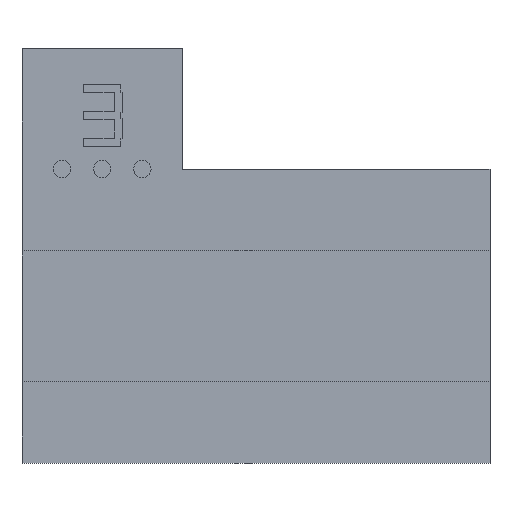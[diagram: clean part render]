
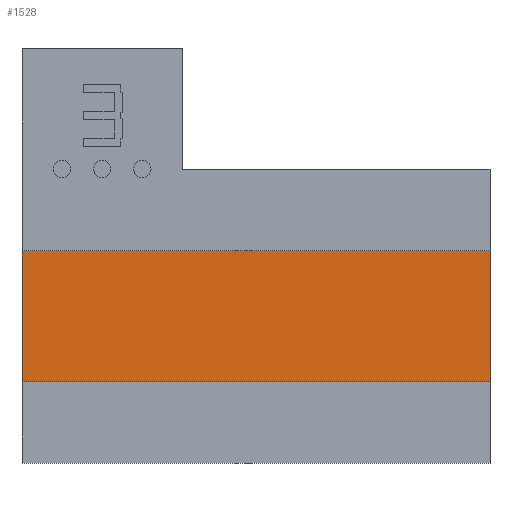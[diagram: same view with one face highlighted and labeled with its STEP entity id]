
A CAD part, top view. The second image highlights one B-rep face of the part: STEP entity #1528.
In plain terms, the highlighted planar face has unit normal (0, 0, 1).
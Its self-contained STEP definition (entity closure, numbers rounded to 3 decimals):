
#128 = PLANE('',#129);
#129 = AXIS2_PLACEMENT_3D('',#130,#131,#132);
#130 = CARTESIAN_POINT('',(12.,11.,6.2));
#131 = DIRECTION('',(1.,0.,0.));
#132 = DIRECTION('',(0.,0.,-1.));
#182 = PLANE('',#183);
#183 = AXIS2_PLACEMENT_3D('',#184,#185,#186);
#184 = CARTESIAN_POINT('',(-23.,11.,6.2));
#185 = DIRECTION('',(1.,0.,0.));
#186 = DIRECTION('',(0.,0.,-1.));
#422 = VERTEX_POINT('',#423);
#423 = CARTESIAN_POINT('',(12.,7.5,3.));
#436 = PLANE('',#437);
#437 = AXIS2_PLACEMENT_3D('',#438,#439,#440);
#438 = CARTESIAN_POINT('',(-31.,7.5,3.));
#439 = DIRECTION('',(0.,-1.,0.));
#440 = DIRECTION('',(0.,0.,1.));
#448 = EDGE_CURVE('',#422,#449,#451,.T.);
#449 = VERTEX_POINT('',#450);
#450 = CARTESIAN_POINT('',(12.,-7.5,3.));
#451 = SURFACE_CURVE('',#452,(#456,#462),.PCURVE_S1.);
#452 = LINE('',#453,#454);
#453 = CARTESIAN_POINT('',(12.,1.75,3.));
#454 = VECTOR('',#455,1.);
#455 = DIRECTION('',(0.,-1.,0.));
#456 = PCURVE('',#128,#457);
#457 = DEFINITIONAL_REPRESENTATION('',(#458),#461);
#458 = B_SPLINE_CURVE_WITH_KNOTS('',1,(#459,#460),.UNSPECIFIED.,.F.,.F.,
  (2,2),(-5.75,9.25),.PIECEWISE_BEZIER_KNOTS.);
#459 = CARTESIAN_POINT('',(3.2,-3.5));
#460 = CARTESIAN_POINT('',(3.2,-18.5));
#461 = ( GEOMETRIC_REPRESENTATION_CONTEXT(2) 
PARAMETRIC_REPRESENTATION_CONTEXT() REPRESENTATION_CONTEXT('2D SPACE',''
  ) );
#462 = PCURVE('',#463,#468);
#463 = PLANE('',#464);
#464 = AXIS2_PLACEMENT_3D('',#465,#466,#467);
#465 = CARTESIAN_POINT('',(-31.,-7.5,3.));
#466 = DIRECTION('',(0.,0.,1.));
#467 = DIRECTION('',(0.,1.,0.));
#468 = DEFINITIONAL_REPRESENTATION('',(#469),#473);
#469 = LINE('',#470,#471);
#470 = CARTESIAN_POINT('',(9.25,-43.));
#471 = VECTOR('',#472,1.);
#472 = DIRECTION('',(-1.,-0.));
#473 = ( GEOMETRIC_REPRESENTATION_CONTEXT(2) 
PARAMETRIC_REPRESENTATION_CONTEXT() REPRESENTATION_CONTEXT('2D SPACE',''
  ) );
#490 = PLANE('',#491);
#491 = AXIS2_PLACEMENT_3D('',#492,#493,#494);
#492 = CARTESIAN_POINT('',(-31.,-7.5,3.6));
#493 = DIRECTION('',(0.,1.,0.));
#494 = DIRECTION('',(0.,0.,-1.));
#678 = VERTEX_POINT('',#679);
#679 = CARTESIAN_POINT('',(-23.,7.5,3.));
#700 = EDGE_CURVE('',#678,#701,#703,.T.);
#701 = VERTEX_POINT('',#702);
#702 = CARTESIAN_POINT('',(-23.,-7.5,3.));
#703 = SURFACE_CURVE('',#704,(#708,#715),.PCURVE_S1.);
#704 = LINE('',#705,#706);
#705 = CARTESIAN_POINT('',(-23.,1.75,3.));
#706 = VECTOR('',#707,1.);
#707 = DIRECTION('',(0.,-1.,0.));
#708 = PCURVE('',#182,#709);
#709 = DEFINITIONAL_REPRESENTATION('',(#710),#714);
#710 = LINE('',#711,#712);
#711 = CARTESIAN_POINT('',(3.2,-9.25));
#712 = VECTOR('',#713,1.);
#713 = DIRECTION('',(0.,-1.));
#714 = ( GEOMETRIC_REPRESENTATION_CONTEXT(2) 
PARAMETRIC_REPRESENTATION_CONTEXT() REPRESENTATION_CONTEXT('2D SPACE',''
  ) );
#715 = PCURVE('',#463,#716);
#716 = DEFINITIONAL_REPRESENTATION('',(#717),#721);
#717 = LINE('',#718,#719);
#718 = CARTESIAN_POINT('',(9.25,-8.));
#719 = VECTOR('',#720,1.);
#720 = DIRECTION('',(-1.,-0.));
#721 = ( GEOMETRIC_REPRESENTATION_CONTEXT(2) 
PARAMETRIC_REPRESENTATION_CONTEXT() REPRESENTATION_CONTEXT('2D SPACE',''
  ) );
#1507 = EDGE_CURVE('',#449,#701,#1508,.T.);
#1508 = SURFACE_CURVE('',#1509,(#1513,#1520),.PCURVE_S1.);
#1509 = LINE('',#1510,#1511);
#1510 = CARTESIAN_POINT('',(12.,-7.5,3.));
#1511 = VECTOR('',#1512,1.);
#1512 = DIRECTION('',(-1.,-0.,0.));
#1513 = PCURVE('',#490,#1514);
#1514 = DEFINITIONAL_REPRESENTATION('',(#1515),#1519);
#1515 = LINE('',#1516,#1517);
#1516 = CARTESIAN_POINT('',(0.6,-43.));
#1517 = VECTOR('',#1518,1.);
#1518 = DIRECTION('',(0.,1.));
#1519 = ( GEOMETRIC_REPRESENTATION_CONTEXT(2) 
PARAMETRIC_REPRESENTATION_CONTEXT() REPRESENTATION_CONTEXT('2D SPACE',''
  ) );
#1520 = PCURVE('',#463,#1521);
#1521 = DEFINITIONAL_REPRESENTATION('',(#1522),#1526);
#1522 = LINE('',#1523,#1524);
#1523 = CARTESIAN_POINT('',(0.,-43.));
#1524 = VECTOR('',#1525,1.);
#1525 = DIRECTION('',(0.,1.));
#1526 = ( GEOMETRIC_REPRESENTATION_CONTEXT(2) 
PARAMETRIC_REPRESENTATION_CONTEXT() REPRESENTATION_CONTEXT('2D SPACE',''
  ) );
#1528 = ADVANCED_FACE('',(#1529),#463,.T.);
#1529 = FACE_BOUND('',#1530,.T.);
#1530 = EDGE_LOOP('',(#1531,#1532,#1533,#1554));
#1531 = ORIENTED_EDGE('',*,*,#1507,.F.);
#1532 = ORIENTED_EDGE('',*,*,#448,.F.);
#1533 = ORIENTED_EDGE('',*,*,#1534,.T.);
#1534 = EDGE_CURVE('',#422,#678,#1535,.T.);
#1535 = SURFACE_CURVE('',#1536,(#1540,#1547),.PCURVE_S1.);
#1536 = LINE('',#1537,#1538);
#1537 = CARTESIAN_POINT('',(12.,7.5,3.));
#1538 = VECTOR('',#1539,1.);
#1539 = DIRECTION('',(-1.,-0.,0.));
#1540 = PCURVE('',#463,#1541);
#1541 = DEFINITIONAL_REPRESENTATION('',(#1542),#1546);
#1542 = LINE('',#1543,#1544);
#1543 = CARTESIAN_POINT('',(15.,-43.));
#1544 = VECTOR('',#1545,1.);
#1545 = DIRECTION('',(0.,1.));
#1546 = ( GEOMETRIC_REPRESENTATION_CONTEXT(2) 
PARAMETRIC_REPRESENTATION_CONTEXT() REPRESENTATION_CONTEXT('2D SPACE',''
  ) );
#1547 = PCURVE('',#436,#1548);
#1548 = DEFINITIONAL_REPRESENTATION('',(#1549),#1553);
#1549 = LINE('',#1550,#1551);
#1550 = CARTESIAN_POINT('',(0.,-43.));
#1551 = VECTOR('',#1552,1.);
#1552 = DIRECTION('',(0.,1.));
#1553 = ( GEOMETRIC_REPRESENTATION_CONTEXT(2) 
PARAMETRIC_REPRESENTATION_CONTEXT() REPRESENTATION_CONTEXT('2D SPACE',''
  ) );
#1554 = ORIENTED_EDGE('',*,*,#700,.T.);
